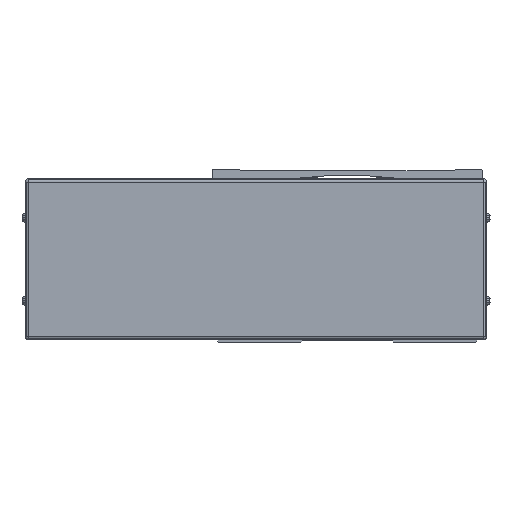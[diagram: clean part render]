
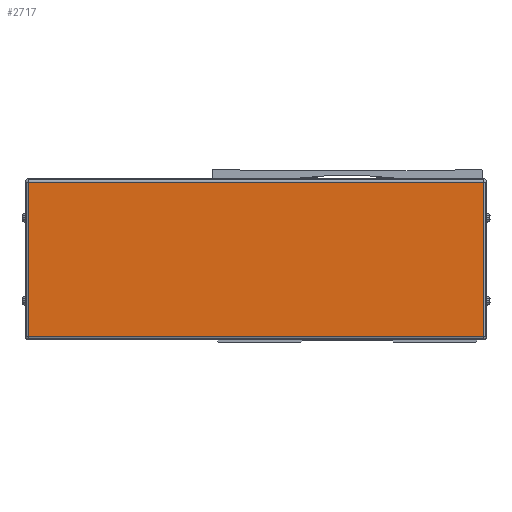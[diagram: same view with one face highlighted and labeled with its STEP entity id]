
A CAD part, front view. The second image highlights one B-rep face of the part: STEP entity #2717.
In plain terms, the highlighted planar face has unit normal (0, -1, 0).
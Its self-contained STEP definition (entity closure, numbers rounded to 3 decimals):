
#2717=ADVANCED_FACE('',(#7271),#7272,.F.);
#7271=FACE_OUTER_BOUND('',#14294,.T.);
#7272=PLANE('',#14295);
#14294=EDGE_LOOP('',(#23851,#23852,#23853,#23854));
#14295=AXIS2_PLACEMENT_3D('',#23855,#23856,#23857);
#23851=ORIENTED_EDGE('',*,*,#42816,.T.);
#23852=ORIENTED_EDGE('',*,*,#42817,.T.);
#23853=ORIENTED_EDGE('',*,*,#42818,.T.);
#23854=ORIENTED_EDGE('',*,*,#42819,.T.);
#23855=CARTESIAN_POINT('',(-655.,-272.778,-2.));
#23856=DIRECTION('',(0.,1.0,0.));
#23857=DIRECTION('',(-1.0,0.,0.));
#42816=EDGE_CURVE('',#51158,#51159,#51160,.T.);
#42817=EDGE_CURVE('',#51159,#51161,#51162,.T.);
#42818=EDGE_CURVE('',#51161,#51163,#51164,.T.);
#42819=EDGE_CURVE('',#51163,#51158,#51165,.T.);
#51158=VERTEX_POINT('',#63329);
#51159=VERTEX_POINT('',#63330);
#51160=LINE('',#63331,#63332);
#51161=VERTEX_POINT('',#63333);
#51162=LINE('',#63334,#63335);
#51163=VERTEX_POINT('',#63336);
#51164=LINE('',#63337,#63338);
#51165=LINE('',#63339,#63340);
#63329=CARTESIAN_POINT('',(-517.9,-272.778,44.5));
#63330=CARTESIAN_POINT('',(-792.1,-272.778,44.5));
#63331=CARTESIAN_POINT('',(-655.,-272.778,44.5));
#63332=VECTOR('',#79348,10.0);
#63333=CARTESIAN_POINT('',(-792.1,-272.778,-48.5));
#63334=CARTESIAN_POINT('',(-792.1,-272.778,-2.));
#63335=VECTOR('',#79349,10.0);
#63336=CARTESIAN_POINT('',(-517.9,-272.778,-48.5));
#63337=CARTESIAN_POINT('',(-655.,-272.778,-48.5));
#63338=VECTOR('',#79350,10.0);
#63339=CARTESIAN_POINT('',(-517.9,-272.778,-2.));
#63340=VECTOR('',#79351,10.0);
#79348=DIRECTION('',(-1.0,0.,0.));
#79349=DIRECTION('',(0.,0.,-1.0));
#79350=DIRECTION('',(1.0,0.,0.));
#79351=DIRECTION('',(0.,0.,1.0));
